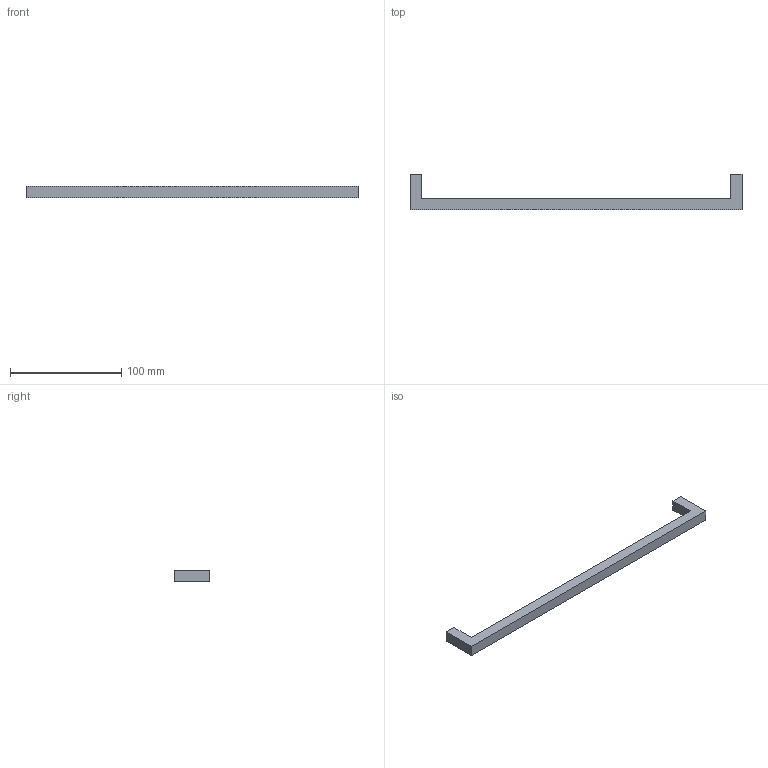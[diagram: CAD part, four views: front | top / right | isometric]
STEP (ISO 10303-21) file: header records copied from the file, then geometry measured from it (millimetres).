
FILE_DESCRIPTION( ( '' ), '1' );
FILE_NAME( 'C:/Documents and Settings/Sachin/Desktop/Sheet 10_1/stp/1160021.stp', '2013-10-22T06:47:56', ( '' ), ( '' ), ' ', ' ', ' ' );
FILE_SCHEMA( ( 'CONFIG_CONTROL_DESIGN' ) );
Length unit declared in the file: millimetre
Products named in the file (1): 1
Bounding box: 298 x 32 x 10 mm (x, y, z)
Volume: 33948.7 mm3; surface area: 14131.3 mm2
Topology: 1 solids, 1 shells, 16 faces, 36 edges, 24 vertices
Faces by surface type: plane 12, cylinder 4
Entity records: 492 total; most frequent: DIRECTION 78, CARTESIAN_POINT 77, ORIENTED_EDGE 72, EDGE_CURVE 36, LINE 28, VECTOR 28, AXIS2_PLACEMENT_3D 25, VERTEX_POINT 24
